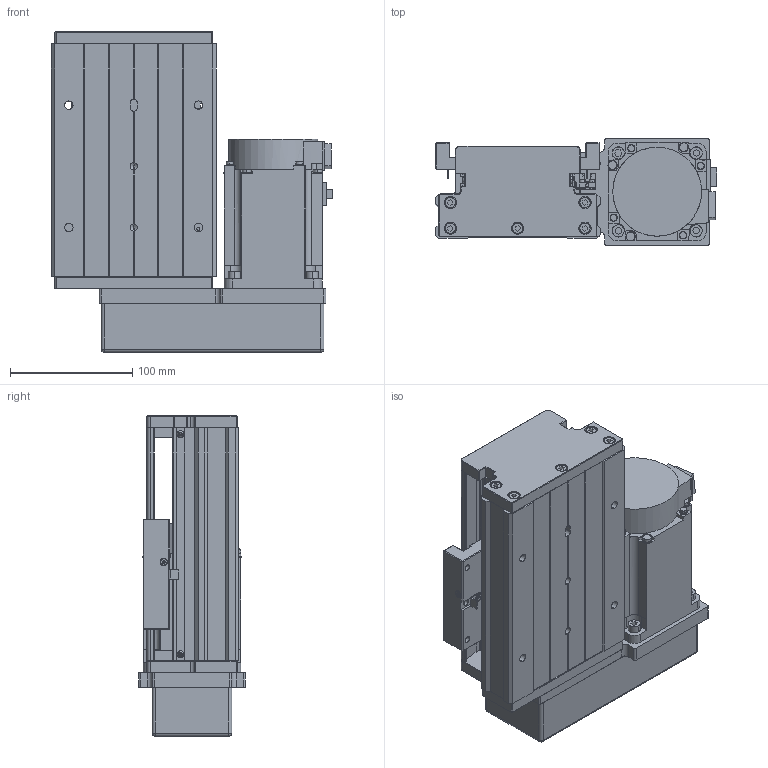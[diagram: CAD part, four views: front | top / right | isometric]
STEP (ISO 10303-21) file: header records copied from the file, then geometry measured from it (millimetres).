
FILE_DESCRIPTION (( 'STEP AP203' ), '1' );
FILE_NAME ('KTH130-50-BR-M75-C4.step', '2023-06-30T04:55:42', ( '微软用户' ), ( '微软中国' ), 'SwSTEP 2.0', 'SolidWorks 2020', '' );
FILE_SCHEMA (( 'CONFIG_CONTROL_DESIGN' ));
Length unit declared in the file: millimetre
Products named in the file (18): KTH130-002_KTH130-002; EE_SX911P_R; CTHA86-015-3_CTHA86-015-4; KTH130-004; CTHA60-016; CTHA86-035; KTH130-005; GBT 70.1-M3℅5; KTH130-50-BR-M75-C4; GB1155-6X6; GBT77-2000 M3×3; GBT70.1 M5℅16; す晦芛蹟隊 M3℅5; GBT 70.2-M3¡Á5_M3¡Á6; GBT 70.3-M3℅8; GTH14-001_50; CTHA60-017; hg-kn73j_-s100
Assembly tree (49 placements, depth 2):
  KTH130-50-BR-M75-C4
    GTH14-001_50
    KTH130-002_KTH130-002
    KTH130-004
    KTH130-005
    GB1155-6X6  x2
    GBT70.1 M5℅16  x10
    GBT 70.2-M3¡Á5_M3¡Á6  x4
    CTHA60-017  x3
    EE_SX911P_R  x3
    CTHA60-016  x2
    GBT 70.1-M3℅5  x6
    GBT77-2000 M3×3  x6
    す晦芛蹟隊 M3℅5  x2
    GBT 70.3-M3℅8  x4
    hg-kn73j_-s100
    CTHA86-015-3_CTHA86-015-4
    CTHA86-035
Bounding box: 230.3 x 87 x 262 mm (x, y, z)
Volume: 2651539.7 mm3; surface area: 389591.3 mm2
Topology: 52 solids, 52 shells, 2162 faces, 5244 edges, 3279 vertices
Faces by surface type: plane 1202, cylinder 606, cone 238, torus 100, sphere 16
Entity records: 39021 total; most frequent: CARTESIAN_POINT 6572, DIRECTION 6397, ORIENTED_EDGE 5992, EDGE_CURVE 2996, AXIS2_PLACEMENT_3D 2222, VECTOR 1953, LINE 1953, VERTEX_POINT 1913
